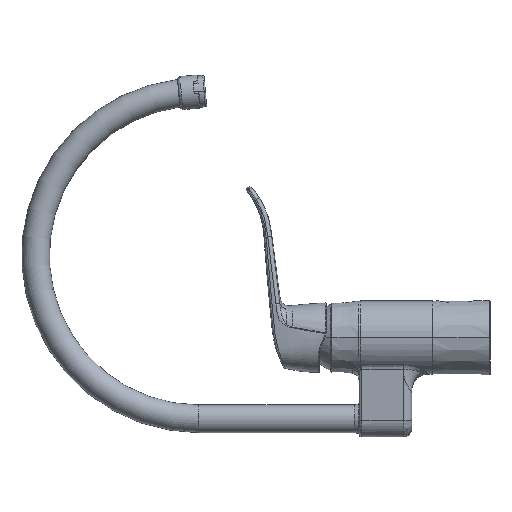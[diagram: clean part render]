
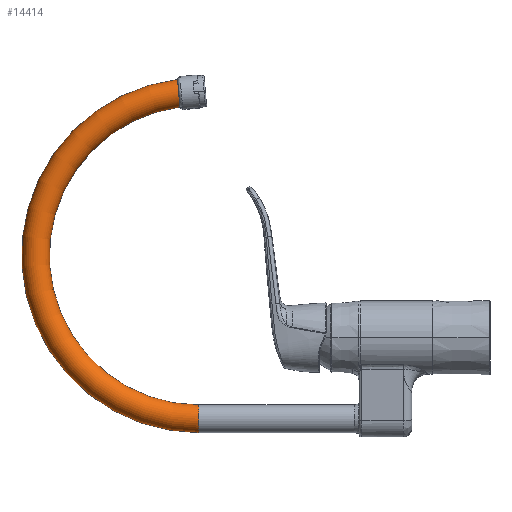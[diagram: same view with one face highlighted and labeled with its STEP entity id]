
A CAD part, left-side view. The second image highlights one B-rep face of the part: STEP entity #14414.
In plain terms, the highlighted toroidal (fillet/blend) face has major radius 118 mm and minor radius 10 mm.
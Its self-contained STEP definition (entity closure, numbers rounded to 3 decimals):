
#163 = CARTESIAN_POINT ( 'NONE',  ( 0., 205.15, 59.396 ) ) ;
#547 = CIRCLE ( 'NONE', #18292, 108. ) ;
#790 = AXIS2_PLACEMENT_3D ( 'NONE', #15398, #3350, #16945 ) ;
#980 = CARTESIAN_POINT ( 'NONE',  ( 0., 205.15, 59.396 ) ) ;
#1029 = CARTESIAN_POINT ( 'NONE',  ( 0., 218.896, 166.517 ) ) ;
#1116 = DIRECTION ( 'NONE',  ( 0., 0., 1. ) ) ;
#1259 = CARTESIAN_POINT ( 'NONE',  ( -9.663, 219.542, 173.901 ) ) ;
#1314 = CARTESIAN_POINT ( 'NONE',  ( -10.001, 219.825, 177.129 ) ) ;
#1400 = CARTESIAN_POINT ( 'NONE',  ( -6.605, 219.113, 168.994 ) ) ;
#1522 = CARTESIAN_POINT ( 'NONE',  ( -10., 219.768, 176.479 ) ) ;
#1542 = CARTESIAN_POINT ( 'NONE',  ( -6.097, 219.077, 168.578 ) ) ;
#1640 = CARTESIAN_POINT ( 'NONE',  ( 0., 205.15, -68.604 ) ) ;
#1736 = EDGE_CURVE ( 'NONE', #7282, #14529, #8146, .T. ) ;
#2889 = CARTESIAN_POINT ( 'NONE',  ( -2.597, 218.926, 166.854 ) ) ;
#2969 = CARTESIAN_POINT ( 'NONE',  ( -5.017, 219.012, 167.838 ) ) ;
#3021 = CARTESIAN_POINT ( 'NONE',  ( -2.599, 220.613, 186.135 ) ) ;
#3088 = CARTESIAN_POINT ( 'NONE',  ( 0., 220.641, 186.455 ) ) ;
#3335 = VERTEX_POINT ( 'NONE', #14719 ) ;
#3350 = DIRECTION ( 'NONE',  ( -1., 0., 0. ) ) ;
#4197 = DIRECTION ( 'NONE',  ( 0., -1., 0. ) ) ;
#4312 = CARTESIAN_POINT ( 'NONE',  ( -4.444, 218.985, 167.532 ) ) ;
#4532 = CARTESIAN_POINT ( 'NONE',  ( -0.652, 218.898, 166.533 ) ) ;
#4589 = CARTESIAN_POINT ( 'NONE',  ( -9.493, 220.049, 179.689 ) ) ;
#4666 = CARTESIAN_POINT ( 'NONE',  ( -0.326, 220.641, 186.455 ) ) ;
#4686 = CARTESIAN_POINT ( 'NONE',  ( -8.976, 219.383, 172.079 ) ) ;
#4737 = CARTESIAN_POINT ( 'NONE',  ( -7.955, 220.3, 182.561 ) ) ;
#6157 = AXIS2_PLACEMENT_3D ( 'NONE', #980, #17710, #4197 ) ;
#6336 = CARTESIAN_POINT ( 'NONE',  ( -3.226, 218.943, 167.045 ) ) ;
#6465 = CARTESIAN_POINT ( 'NONE',  ( -8.666, 220.205, 181.472 ) ) ;
#6481 = CARTESIAN_POINT ( 'NONE',  ( -6.847, 219.132, 169.214 ) ) ;
#6549 = CARTESIAN_POINT ( 'NONE',  ( -9.936, 219.655, 175.184 ) ) ;
#6602 = CARTESIAN_POINT ( 'NONE',  ( -0.654, 220.639, 186.439 ) ) ;
#6690 = CARTESIAN_POINT ( 'NONE',  ( -9.744, 219.57, 174.221 ) ) ;
#7035 = DIRECTION ( 'NONE',  ( 0., 0., 1. ) ) ;
#7082 = VERTEX_POINT ( 'NONE', #20167 ) ;
#7159 = ORIENTED_EDGE ( 'NONE', *, *, #9303, .F. ) ;
#7282 = VERTEX_POINT ( 'NONE', #8387 ) ;
#7391 = CIRCLE ( 'NONE', #20872, 10. ) ;
#7992 = CARTESIAN_POINT ( 'NONE',  ( -1.634, 218.908, 166.646 ) ) ;
#8051 = CARTESIAN_POINT ( 'NONE',  ( -9.936, 219.883, 177.79 ) ) ;
#8146 = CIRCLE ( 'NONE', #790, 128. ) ;
#8269 = CARTESIAN_POINT ( 'NONE',  ( -5.01, 220.524, 185.12 ) ) ;
#8283 = CARTESIAN_POINT ( 'NONE',  ( -8.498, 219.308, 171.222 ) ) ;
#8387 = CARTESIAN_POINT ( 'NONE',  ( 0., 220.641, 186.455 ) ) ;
#9303 = EDGE_CURVE ( 'NONE', #21763, #7082, #547, .T. ) ;
#9819 = EDGE_CURVE ( 'NONE', #21763, #3335, #20489, .T. ) ;
#9832 = CARTESIAN_POINT ( 'NONE',  ( -9.681, 219.994, 179.068 ) ) ;
#9850 = EDGE_LOOP ( 'NONE', ( #20232, #11351, #17578, #7159, #13568 ) ) ;
#9853 = CARTESIAN_POINT ( 'NONE',  ( -9.473, 219.488, 173.277 ) ) ;
#9905 = CARTESIAN_POINT ( 'NONE',  ( -6.103, 220.462, 184.41 ) ) ;
#9973 = CARTESIAN_POINT ( 'NONE',  ( -4.431, 220.551, 185.429 ) ) ;
#11351 = ORIENTED_EDGE ( 'NONE', *, *, #1736, .T. ) ;
#11481 = CARTESIAN_POINT ( 'NONE',  ( -8.975, 220.154, 180.895 ) ) ;
#11498 = CARTESIAN_POINT ( 'NONE',  ( -8.668, 219.333, 171.505 ) ) ;
#11554 = CARTESIAN_POINT ( 'NONE',  ( -8.498, 220.229, 181.751 ) ) ;
#12127 = EDGE_CURVE ( 'NONE', #7082, #14529, #7391, .T. ) ;
#13067 = CARTESIAN_POINT ( 'NONE',  ( -0.326, 218.896, 166.517 ) ) ;
#13142 = CARTESIAN_POINT ( 'NONE',  ( -2.278, 218.919, 166.774 ) ) ;
#13202 = CARTESIAN_POINT ( 'NONE',  ( -4.131, 220.563, 185.571 ) ) ;
#13229 = DIRECTION ( 'NONE',  ( 0., -1., 0. ) ) ;
#13278 = CARTESIAN_POINT ( 'NONE',  ( -3.222, 220.596, 185.946 ) ) ;
#13411 = CARTESIAN_POINT ( 'NONE',  ( -5.29, 220.509, 184.952 ) ) ;
#13568 = ORIENTED_EDGE ( 'NONE', *, *, #9819, .T. ) ;
#13841 = DIRECTION ( 'NONE',  ( -1., 0., 0. ) ) ;
#14100 = TOROIDAL_SURFACE ( 'NONE', #6157, 118., 10. ) ;
#14414 = ADVANCED_FACE ( 'NONE', ( #21286 ), #14100, .T. ) ;
#14529 = VERTEX_POINT ( 'NONE', #1640 ) ;
#14719 = CARTESIAN_POINT ( 'NONE',  ( -10., 219.768, 176.479 ) ) ;
#15013 = CARTESIAN_POINT ( 'NONE',  ( -9.254, 219.434, 172.666 ) ) ;
#15347 = CARTESIAN_POINT ( 'NONE',  ( 0., 218.896, 166.517 ) ) ;
#15398 = CARTESIAN_POINT ( 'NONE',  ( 0., 205.15, 59.396 ) ) ;
#16381 = B_SPLINE_CURVE_WITH_KNOTS ( 'NONE', 3,
 ( #1522, #1314, #8051, #9832, #4589, #21839, #11481, #6465, #11554, #4737, #16549, #18399, #9905, #13411, #8269, #9973, #13202, #13278, #3021, #21983, #21911, #6602, #4666, #3088 ),
 .UNSPECIFIED., .F., .F.,
 ( 4, 2, 2, 2, 2, 2, 2, 2, 2, 2, 2, 4 ),
 ( 0.012, 0.014, 0.016, 0.017, 0.018, 0.02, 0.022, 0.023, 0.024, 0.026, 0.027, 0.028 ),
 .UNSPECIFIED. ) ;
#16492 = CARTESIAN_POINT ( 'NONE',  ( -1.307, 218.903, 166.597 ) ) ;
#16549 = CARTESIAN_POINT ( 'NONE',  ( -7.542, 220.344, 183.066 ) ) ;
#16641 = CARTESIAN_POINT ( 'NONE',  ( -10., 219.768, 176.479 ) ) ;
#16788 = CARTESIAN_POINT ( 'NONE',  ( -5.832, 219.059, 168.382 ) ) ;
#16945 = DIRECTION ( 'NONE',  ( 0., 0., 1. ) ) ;
#16976 = EDGE_CURVE ( 'NONE', #3335, #7282, #16381, .T. ) ;
#17578 = ORIENTED_EDGE ( 'NONE', *, *, #12127, .F. ) ;
#17710 = DIRECTION ( 'NONE',  ( -1., 0., 0. ) ) ;
#18292 = AXIS2_PLACEMENT_3D ( 'NONE', #163, #13841, #7035 ) ;
#18353 = CARTESIAN_POINT ( 'NONE',  ( 0., 205.15, -58.604 ) ) ;
#18399 = CARTESIAN_POINT ( 'NONE',  ( -6.608, 220.426, 183.998 ) ) ;
#18555 = CARTESIAN_POINT ( 'NONE',  ( -7.951, 219.236, 170.405 ) ) ;
#20131 = CARTESIAN_POINT ( 'NONE',  ( -7.537, 219.193, 169.903 ) ) ;
#20167 = CARTESIAN_POINT ( 'NONE',  ( 0., 205.15, -48.604 ) ) ;
#20232 = ORIENTED_EDGE ( 'NONE', *, *, #16976, .T. ) ;
#20489 = B_SPLINE_CURVE_WITH_KNOTS ( 'NONE', 3,
 ( #1029, #13067, #4532, #16492, #7992, #13142, #2889, #6336, #21339, #4312, #2969, #16788, #1542, #1400, #6481, #20131, #18555, #8283, #11498, #4686, #15013, #9853, #1259, #6690, #6549, #21861, #16641 ),
 .UNSPECIFIED., .F., .F.,
 ( 4, 2, 2, 2, 2, 2, 2, 2, 2, 2, 1, 2, 2, 4 ),
 ( 0.059, 0.06, 0.061, 0.062, 0.063, 0.065, 0.066, 0.067, 0.069, 0.07, 0.071, 0.072, 0.073, 0.075 ),
 .UNSPECIFIED. ) ;
#20872 = AXIS2_PLACEMENT_3D ( 'NONE', #18353, #13229, #1116 ) ;
#21286 = FACE_OUTER_BOUND ( 'NONE', #9850, .T. ) ;
#21339 = CARTESIAN_POINT ( 'NONE',  ( -3.538, 218.952, 167.156 ) ) ;
#21763 = VERTEX_POINT ( 'NONE', #15347 ) ;
#21839 = CARTESIAN_POINT ( 'NONE',  ( -9.117, 220.128, 180.595 ) ) ;
#21861 = CARTESIAN_POINT ( 'NONE',  ( -9.999, 219.711, 175.829 ) ) ;
#21911 = CARTESIAN_POINT ( 'NONE',  ( -1.31, 220.634, 186.374 ) ) ;
#21983 = CARTESIAN_POINT ( 'NONE',  ( -1.636, 220.629, 186.326 ) ) ;
